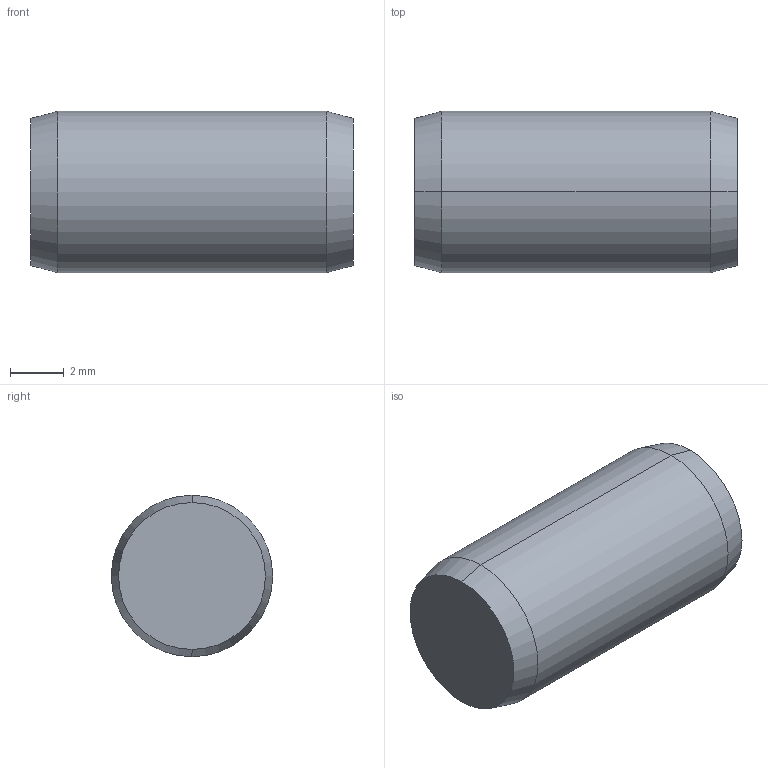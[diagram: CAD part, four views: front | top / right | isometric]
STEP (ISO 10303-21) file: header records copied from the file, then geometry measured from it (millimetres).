
FILE_DESCRIPTION (( 'STEP AP203' ), '1' );
FILE_NAME ('P1206.060-012.step', '2017-06-14T08:19:24', ( 'User' ), ( '' ), 'SwSTEP 2.0', 'SolidWorks 2009', '' );
FILE_SCHEMA (( 'CONFIG_CONTROL_DESIGN' ));
Length unit declared in the file: millimetre
Products named in the file (1): P1206.060-012
Bounding box: 12 x 6 x 6 mm (x, y, z)
Volume: 334.4 mm3; surface area: 272.7 mm2
Topology: 1 solids, 1 shells, 8 faces, 14 edges, 8 vertices
Faces by surface type: cone 4, cylinder 2, plane 2
Entity records: 271 total; most frequent: DIRECTION 40, CARTESIAN_POINT 31, ORIENTED_EDGE 28, AXIS2_PLACEMENT_3D 17, EDGE_CURVE 14, ADVANCED_FACE 8, EDGE_LOOP 8, VERTEX_POINT 8
